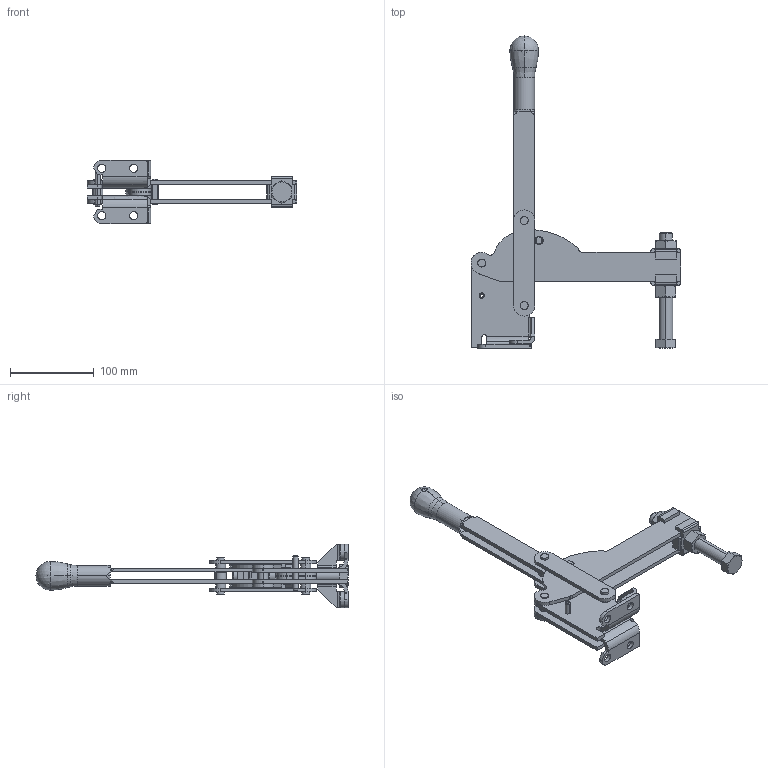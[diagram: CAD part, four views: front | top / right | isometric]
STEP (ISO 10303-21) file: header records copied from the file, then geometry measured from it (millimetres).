
FILE_DESCRIPTION((''),'2;1');
FILE_NAME('C:\1a1-lapeer-mfg\v1200\step\V-1200.stp','2006-02-28T16:53:54',(''),(''),'Autodesk Inventor 9','Autodesk Inventor 9','');
FILE_SCHEMA(('CONFIG_CONTROL_DESIGN'));
Length unit declared in the file: inch
Products named in the file (19): V-1200; 120009-L; 120009-R; 150013; 150016; 150021; 150025; 110003-RL; 150018; 150022; 100001; 121001; 130013; 102016; N-470020; 170020; 170021-CT; 170012-CT; 171012
Assembly tree (25 placements, depth 3):
  V-1200
    120009-L
    120009-R
    150013
    150016  x2
    150021  x2
    150025
    110003-RL  x2
    150018
    150022
    100001  x2
    121001  x2
    130013  x2
    102016
    N-470020
      170020
      170021-CT
      170012-CT
      171012  x2
Bounding box: 250.82 x 373.05 x 75.84 mm (x, y, z)
Volume: 360578 mm3; surface area: 192477.2 mm2
Topology: 24 solids, 24 shells, 650 faces, 1656 edges, 1058 vertices
Faces by surface type: cylinder 233, plane 221, bspline 120, cone 60, sphere 16
Entity records: 18859 total; most frequent: CARTESIAN_POINT 4632, DIRECTION 2492, ORIENTED_EDGE 2414, EDGE_CURVE 1207, AXIS2_PLACEMENT_3D 961, VERTEX_POINT 771, VECTOR 570, LINE 570
